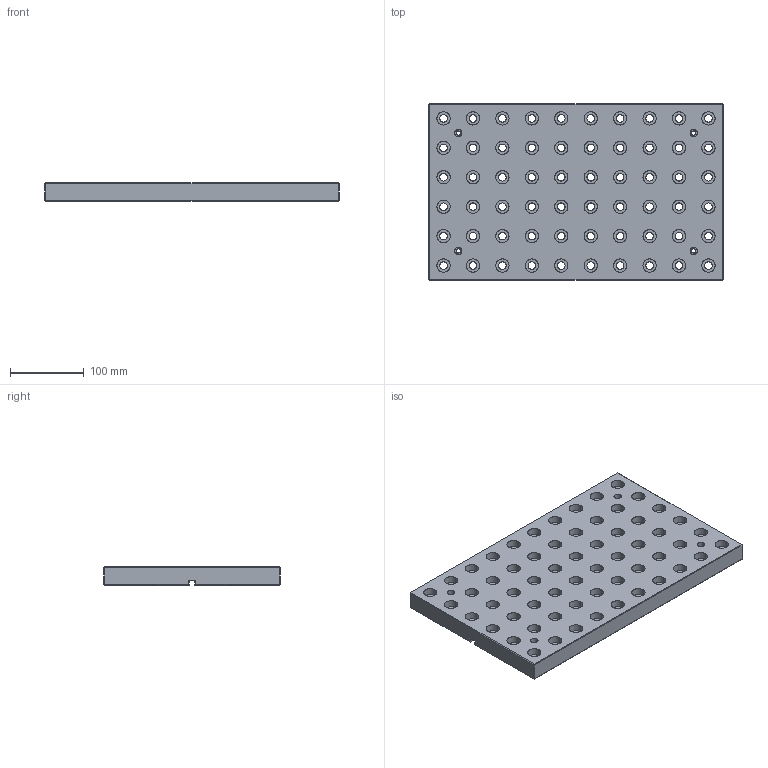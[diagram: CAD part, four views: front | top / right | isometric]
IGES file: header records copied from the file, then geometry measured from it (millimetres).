
Start section: SolidWorks IGES FILE using analytic representation for surfaces
Global section: file name: C:\Documents and Settings\admin-prod\Mes documents\Cu-3axes-realmeca-sw2003\plaque-norelem.IGS; native system: SolidWorks 2003 by SolidWorks Corporation; preprocessor: Version 5.3; author: admin-prod; date: 070509.135921; units: millimetre
Bounding box: 400 x 240 x 25 mm (x, y, z)
Surface area: 282147.7 mm2 (no closed solid volume)
Topology: 0 solids, 0 shells, 358 faces, 9368 edges, 9368 vertices
Faces by surface type: revolution 256, bspline 102
